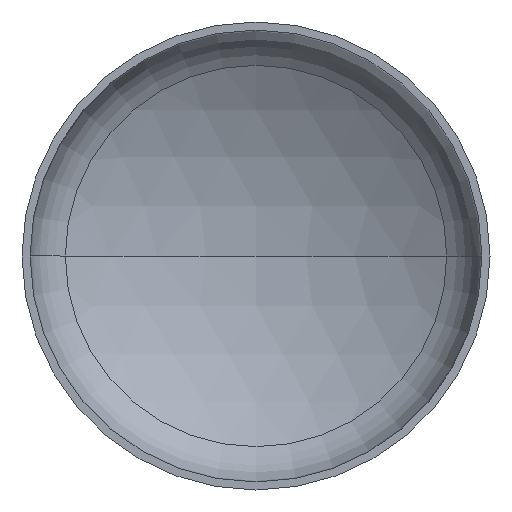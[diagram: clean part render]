
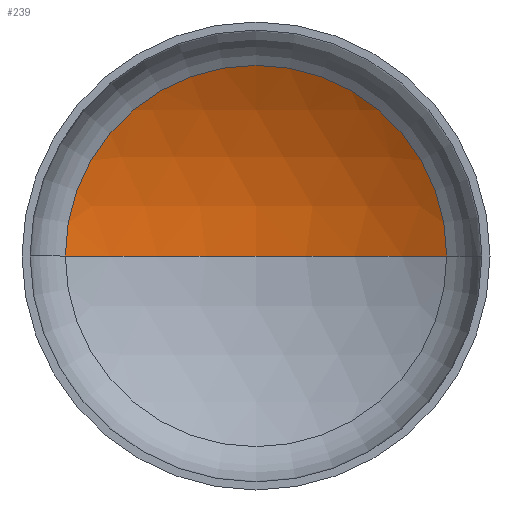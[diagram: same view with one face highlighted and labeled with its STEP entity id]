
A CAD part, front view. The second image highlights one B-rep face of the part: STEP entity #239.
In plain terms, the highlighted spherical face has radius 1200 mm.
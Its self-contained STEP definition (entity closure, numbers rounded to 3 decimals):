
#5 = AXIS2_PLACEMENT_3D ( 'NONE', #152, #149, #176 ) ;
#7 = AXIS2_PLACEMENT_3D ( 'NONE', #202, #56, #201 ) ;
#14 = EDGE_LOOP ( 'NONE', ( #32, #45, #117 ) ) ;
#19 = AXIS2_PLACEMENT_3D ( 'NONE', #154, #131, #155 ) ;
#23 = VERTEX_POINT ( 'NONE', #259 ) ;
#32 = ORIENTED_EDGE ( 'NONE', *, *, #363, .F. ) ;
#45 = ORIENTED_EDGE ( 'NONE', *, *, #375, .T. ) ;
#56 = DIRECTION ( 'NONE',  ( 0., 0., -1. ) ) ;
#67 = VERTEX_POINT ( 'NONE', #376 ) ;
#76 = AXIS2_PLACEMENT_3D ( 'NONE', #195, #228, #141 ) ;
#112 = VERTEX_POINT ( 'NONE', #303 ) ;
#117 = ORIENTED_EDGE ( 'NONE', *, *, #377, .T. ) ;
#131 = DIRECTION ( 'NONE',  ( 0., 0., 1. ) ) ;
#141 = DIRECTION ( 'NONE',  ( -1., 0., 0. ) ) ;
#149 = DIRECTION ( 'NONE',  ( 0., -1., 0. ) ) ;
#152 = CARTESIAN_POINT ( 'NONE',  ( 0., 282.938, 0. ) ) ;
#154 = CARTESIAN_POINT ( 'NONE',  ( 0., -749.784, 0. ) ) ;
#155 = DIRECTION ( 'NONE',  ( 1., 0., 0. ) ) ;
#165 = CIRCLE ( 'NONE', #5, 611.134 ) ;
#176 = DIRECTION ( 'NONE',  ( 1., 0., 0. ) ) ;
#195 = CARTESIAN_POINT ( 'NONE',  ( 0., -749.784, 0. ) ) ;
#201 = DIRECTION ( 'NONE',  ( -1., 0., 0. ) ) ;
#202 = CARTESIAN_POINT ( 'NONE',  ( 0., -749.784, 0. ) ) ;
#212 = FACE_OUTER_BOUND ( 'NONE', #14, .T. ) ;
#228 = DIRECTION ( 'NONE',  ( 0., 0., -1. ) ) ;
#239 = ADVANCED_FACE ( 'NONE', ( #212 ), #392, .F. ) ;
#241 = CIRCLE ( 'NONE', #7, 1200. ) ;
#259 = CARTESIAN_POINT ( 'NONE',  ( 0., 450.216, 0. ) ) ;
#299 = CIRCLE ( 'NONE', #19, 1200. ) ;
#303 = CARTESIAN_POINT ( 'NONE',  ( -611.134, 282.938, 0. ) ) ;
#363 = EDGE_CURVE ( 'NONE', #23, #112, #299, .T. ) ;
#375 = EDGE_CURVE ( 'NONE', #23, #67, #241, .T. ) ;
#376 = CARTESIAN_POINT ( 'NONE',  ( 611.134, 282.938, 0. ) ) ;
#377 = EDGE_CURVE ( 'NONE', #67, #112, #165, .T. ) ;
#392 = SPHERICAL_SURFACE ( 'NONE', #76, 1200. ) ;
